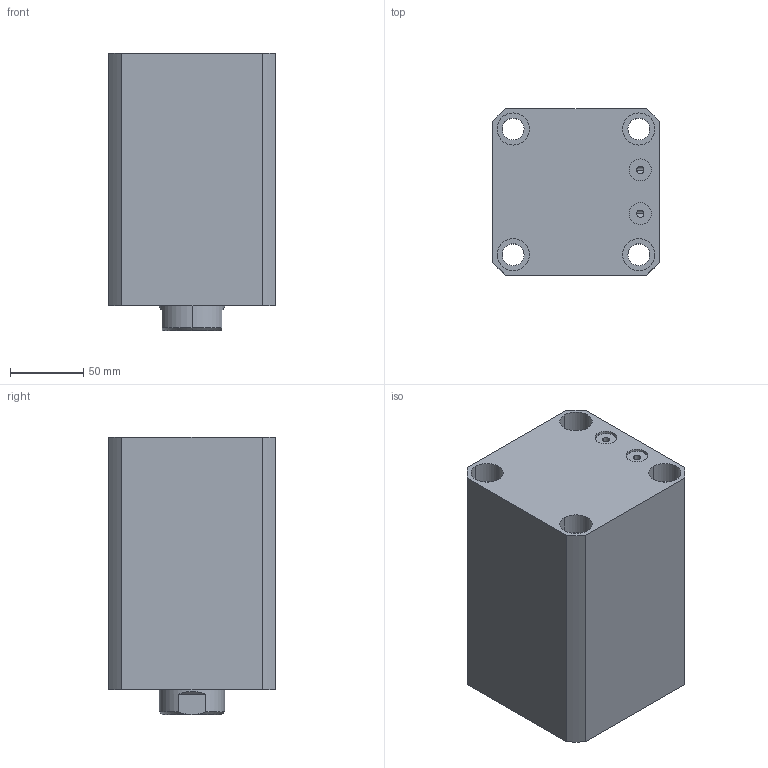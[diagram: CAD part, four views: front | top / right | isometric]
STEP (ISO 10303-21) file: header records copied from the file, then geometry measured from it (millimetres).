
FILE_DESCRIPTION (( 'STEP AP214' ), '1' );
FILE_NAME ('chtb-sdmb80x95n_asm.STEP', '2018-05-25T08:18:23', ( 'Windows' ), ( 'Microsoft' ), 'SwSTEP 2.0', 'SolidWorks 2015', '' );
FILE_SCHEMA (( 'AUTOMOTIVE_DESIGN' ));
Length unit declared in the file: millimetre
Products named in the file (4): CHTB-SDMB80X95NBT; CHTB-SD80X95NHSG; CHTB-SD80QG; chtb-sdmb80x95n_asm
Assembly tree (3 placements, depth 2):
  chtb-sdmb80x95n_asm
    CHTB-SD80QG
    CHTB-SD80X95NHSG
    CHTB-SDMB80X95NBT
Bounding box: 114 x 114 x 190 mm (x, y, z)
Volume: 1733881 mm3; surface area: 247826.2 mm2
Topology: 3 solids, 3 shells, 190 faces, 516 edges, 345 vertices
Faces by surface type: cylinder 107, plane 35, torus 18, cone 16, bspline 14
Entity records: 15174 total; most frequent: CARTESIAN_POINT 10467, ORIENTED_EDGE 1020, DIRECTION 879, EDGE_CURVE 510, AXIS2_PLACEMENT_3D 368, VERTEX_POINT 345, EDGE_LOOP 227, ADVANCED_FACE 190
